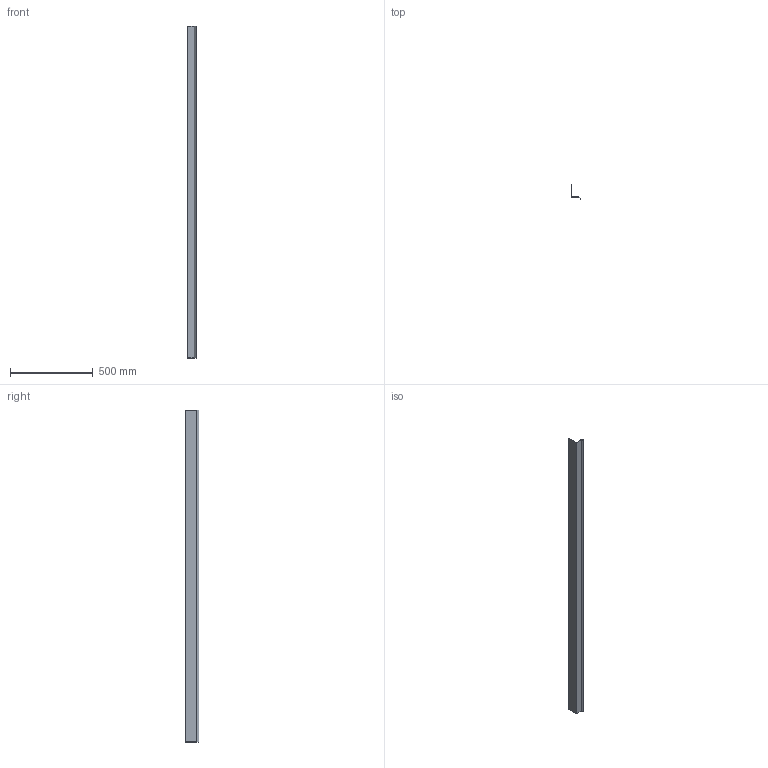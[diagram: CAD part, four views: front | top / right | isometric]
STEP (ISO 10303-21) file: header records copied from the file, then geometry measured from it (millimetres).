
FILE_DESCRIPTION (( 'STEP AP203' ), '1' );
FILE_NAME ('M53CD.STEP', '2018-06-19T13:11:43', ( 'Michael Moliner' ), ( '' ), 'SwSTEP 2.0', 'SolidWorks 2018', '' );
FILE_SCHEMA (( 'CONFIG_CONTROL_DESIGN' ));
Length unit declared in the file: inch
Products named in the file (2): M53CD
Bounding box: 54.02 x 82.88 x 2000 mm (x, y, z)
Volume: 189508.8 mm3; surface area: 748319.1 mm2
Topology: 1 solids, 1 shells, 21 faces, 57 edges, 38 vertices
Faces by surface type: plane 14, cylinder 7
Entity records: 822 total; most frequent: CARTESIAN_POINT 118, DIRECTION 117, ORIENTED_EDGE 114, EDGE_CURVE 57, VECTOR 43, LINE 43, VERTEX_POINT 38, AXIS2_PLACEMENT_3D 37
